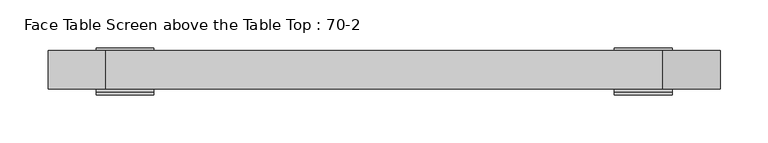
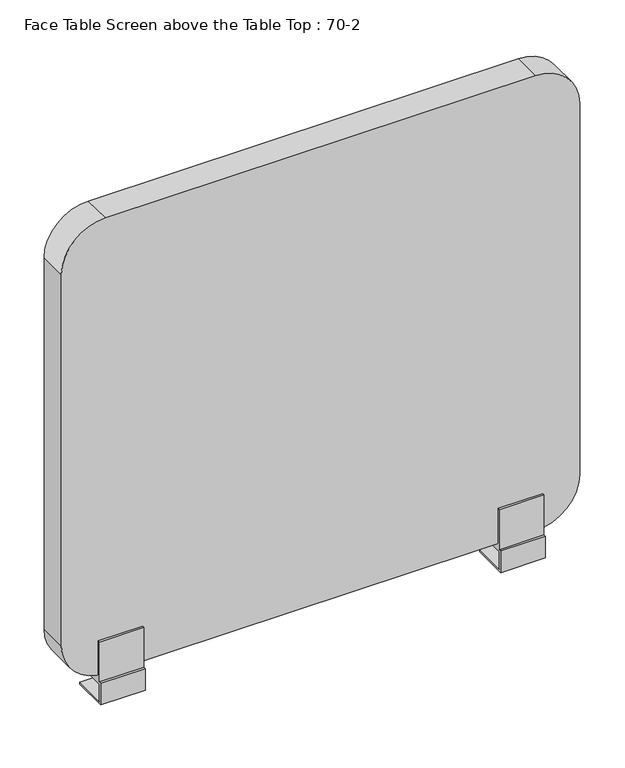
"""IFC4 building model written with IfcOpenShell, lengths in millimetres: furniture geometry, Face Table Screen above the Table Top : 70-2."""

from ifc_helpers import new_model, si_unit, point, frame, frame_2d, origin, place, context, project, spatial, polyline, circle_curve, trimmed, segment, composite_curve, outline, extrude, source, transform, mapped, element, save
from ifc_brep_helpers import plane_surface, cylinder_surface, advanced_brep


def face_table_screen_above_the_table_top_70_2_15536117(model_context):
    return source(origin(), model_context, "Body", "SolidModel", [
        advanced_brep(
        [(-275.0, 0.0, -39.4406633), (-265.0, 0.0, -39.4406633), (-265.0, 0.0, -28.0), (-275.0, 0.0, -28.0), (-300.0, 23.0, -25.0), (-300.0, -23.0, -25.0), (-240.0, -23.0, -25.0), (-240.0, 23.0, -25.0), (-300.0, -23.0, 0.0), (-300.0, 23.0, -28.0), (-300.0, -26.0, -28.0), (-300.0, -26.0, 3.0), (-300.0, -23.0, 3.0), (-300.0, -23.0, 60.0), (-300.0, -20.0, 60.0), (-300.0, -20.0, 10.0), (-300.0, 20.0, 10.0), (-300.0, 20.0, 60.0), (-300.0, 23.0, 60.0), (-300.0, 23.0, 0.0), (-240.0, -23.0, 0.0), (-240.0, 23.0, 0.0), (-240.0, 23.0, 60.0), (-240.0, 20.0, 60.0), (-240.0, 20.0, 10.0), (-240.0, -20.0, 10.0), (-240.0, -20.0, 60.0), (-240.0, -23.0, 60.0), (-240.0, -23.0, 3.0), (-240.0, -26.0, 3.0), (-240.0, -26.0, -28.0), (-240.0, 23.0, -28.0)],
        [
            (0, 1, circle_curve(frame((-270.0, 0.0, -39.4406633), z_axis=(0.0, 0.0, -1.0), x_axis=(1.0, 0.0, 0.0)), 5.0)),
            (1, 0, circle_curve(frame((-270.0, 0.0, -39.4406633), z_axis=(0.0, 0.0, -1.0), x_axis=(1.0, 0.0, 0.0)), 5.0)),
            (1, 2),
            (2, 3, circle_curve(frame((-270.0, 0.0, -28.0), z_axis=(0.0, 0.0, -1.0), x_axis=(1.0, 0.0, 0.0)), 5.0)),
            (3, 0),
            (3, 2, circle_curve(frame((-270.0, 0.0, -28.0), z_axis=(0.0, 0.0, -1.0), x_axis=(1.0, 0.0, 0.0)), 5.0)),
            (4, 5),
            (5, 6),
            (6, 7),
            (7, 4),
            (8, 5),
            (4, 9),
            (9, 10),
            (10, 11),
            (11, 12),
            (12, 13),
            (13, 14),
            (14, 15),
            (15, 16),
            (16, 17),
            (17, 18),
            (18, 19),
            (19, 8),
            (20, 21),
            (21, 22),
            (22, 23),
            (23, 24),
            (24, 25),
            (25, 26),
            (26, 27),
            (27, 28),
            (28, 29),
            (29, 30),
            (30, 31),
            (31, 7),
            (6, 20),
            (19, 21),
            (20, 8),
            (18, 22),
            (17, 23),
            (16, 24),
            (15, 25),
            (14, 26),
            (13, 27),
            (12, 28),
            (11, 29),
            (10, 30),
            (9, 31),
        ],
        [
            plane_surface(frame((-265.0, 0.0, -39.4406633), z_axis=(0.0, 0.0, -1.0), x_axis=(0.0, -1.0, 0.0))),
            cylinder_surface(frame((-270.0, 0.0, -39.4406633), z_axis=(0.0, 0.0, 1.0), x_axis=(1.0, 0.0, 0.0)), 5.0),
            plane_surface(frame((-265.0, 0.0, -25.0), z_axis=(0.0, 0.0, 1.0), x_axis=(0.0, 1.0, 0.0))),
            plane_surface(frame((-300.0, 23.0, 0.0), z_axis=(-1.0, 0.0, 0.0), x_axis=(0.0, -1.0, 0.0))),
            plane_surface(frame((-240.0, 23.0, 0.0), z_axis=(1.0, 0.0, 0.0), x_axis=(0.0, 1.0, 0.0))),
            plane_surface(frame((-240.0, -23.0, 0.0), z_axis=(0.0, 0.0, -1.0), x_axis=(-1.0, 0.0, 0.0))),
            plane_surface(frame((-240.0, 23.0, 0.0), z_axis=(0.0, 1.0, 0.0), x_axis=(-1.0, 0.0, 0.0))),
            plane_surface(frame((-240.0, 23.0, 60.0), z_axis=(0.0, 0.0, 1.0), x_axis=(-1.0, 0.0, 0.0))),
            plane_surface(frame((-240.0, 20.0, 60.0), z_axis=(0.0, -1.0, 0.0), x_axis=(-1.0, 0.0, 0.0))),
            plane_surface(frame((-240.0, 20.0, 10.0), z_axis=(0.0, 0.0, 1.0), x_axis=(-1.0, 0.0, 0.0))),
            plane_surface(frame((-240.0, -20.0, 10.0), z_axis=(0.0, 1.0, 0.0), x_axis=(-1.0, 0.0, 0.0))),
            plane_surface(frame((-240.0, -20.0, 60.0), z_axis=(0.0, 0.0, 1.0), x_axis=(-1.0, 0.0, 0.0))),
            plane_surface(frame((-240.0, -23.0, 60.0), z_axis=(0.0, -1.0, 0.0), x_axis=(-1.0, 0.0, 0.0))),
            plane_surface(frame((-240.0, -23.0, 3.0), z_axis=(0.0, 0.0, 1.0), x_axis=(-1.0, 0.0, 0.0))),
            plane_surface(frame((-240.0, -26.0, 3.0), z_axis=(0.0, -1.0, 0.0), x_axis=(-1.0, 0.0, 0.0))),
            plane_surface(frame((-240.0, -26.0, -28.0), z_axis=(0.0, 0.0, -1.0), x_axis=(-1.0, 0.0, 0.0))),
            plane_surface(frame((-240.0, 23.0, -28.0), z_axis=(0.0, 1.0, 0.0), x_axis=(-1.0, 0.0, 0.0))),
            plane_surface(frame((-240.0, -23.0, -25.0), z_axis=(0.0, 1.0, 0.0), x_axis=(-1.0, 0.0, 0.0))),
        ],
        [
            (0, [[1, 2]]),
            (1, [[-2, 3, 4, 5]]),
            (1, [[-1, -5, 6, -3]]),
            (2, [[7, 8, 9, 10]]),
            (3, [[11, -7, 12, 13, 14, 15, 16, 17, 18, 19, 20, 21, 22, 23]]),
            (4, [[24, 25, 26, 27, 28, 29, 30, 31, 32, 33, 34, 35, -9, 36]]),
            (5, [[-23, 37, -24, 38]]),
            (6, [[-22, 39, -25, -37]]),
            (7, [[-21, 40, -26, -39]]),
            (8, [[-20, 41, -27, -40]]),
            (9, [[-19, 42, -28, -41]]),
            (10, [[-18, 43, -29, -42]]),
            (11, [[-17, 44, -30, -43]]),
            (12, [[-16, 45, -31, -44]]),
            (13, [[-15, 46, -32, -45]]),
            (14, [[-14, 47, -33, -46]]),
            (15, [[-13, 48, -34, -47], [-4, -6]]),
            (16, [[-12, -10, -35, -48]]),
            (17, [[-11, -38, -36, -8]]),
        ],
    ),
        advanced_brep(
        [(265.0, 0.0, -39.4406633), (275.0, 0.0, -39.4406633), (275.0, 0.0, -28.0), (265.0, 0.0, -28.0), (240.0, 23.0, -25.0), (240.0, -23.0, -25.0), (300.0, -23.0, -25.0), (300.0, 23.0, -25.0), (240.0, -23.0, 0.0), (240.0, 23.0, -28.0), (240.0, -26.0, -28.0), (240.0, -26.0, 3.0), (240.0, -23.0, 3.0), (240.0, -23.0, 60.0), (240.0, -20.0, 60.0), (240.0, -20.0, 10.0), (240.0, 20.0, 10.0), (240.0, 20.0, 60.0), (240.0, 23.0, 60.0), (240.0, 23.0, 0.0), (300.0, -23.0, 0.0), (300.0, 23.0, 0.0), (300.0, 23.0, 60.0), (300.0, 20.0, 60.0), (300.0, 20.0, 10.0), (300.0, -20.0, 10.0), (300.0, -20.0, 60.0), (300.0, -23.0, 60.0), (300.0, -23.0, 3.0), (300.0, -26.0, 3.0), (300.0, -26.0, -28.0), (300.0, 23.0, -28.0)],
        [
            (0, 1, circle_curve(frame((270.0, 0.0, -39.4406633), z_axis=(0.0, 0.0, -1.0), x_axis=(1.0, 0.0, 0.0)), 5.0)),
            (1, 0, circle_curve(frame((270.0, 0.0, -39.4406633), z_axis=(0.0, 0.0, -1.0), x_axis=(1.0, 0.0, 0.0)), 5.0)),
            (1, 2),
            (2, 3, circle_curve(frame((270.0, 0.0, -28.0), z_axis=(0.0, 0.0, -1.0), x_axis=(1.0, 0.0, 0.0)), 5.0)),
            (3, 0),
            (3, 2, circle_curve(frame((270.0, 0.0, -28.0), z_axis=(0.0, 0.0, -1.0), x_axis=(1.0, 0.0, 0.0)), 5.0)),
            (4, 5),
            (5, 6),
            (6, 7),
            (7, 4),
            (8, 5),
            (4, 9),
            (9, 10),
            (10, 11),
            (11, 12),
            (12, 13),
            (13, 14),
            (14, 15),
            (15, 16),
            (16, 17),
            (17, 18),
            (18, 19),
            (19, 8),
            (20, 21),
            (21, 22),
            (22, 23),
            (23, 24),
            (24, 25),
            (25, 26),
            (26, 27),
            (27, 28),
            (28, 29),
            (29, 30),
            (30, 31),
            (31, 7),
            (6, 20),
            (19, 21),
            (20, 8),
            (18, 22),
            (17, 23),
            (16, 24),
            (15, 25),
            (14, 26),
            (13, 27),
            (12, 28),
            (11, 29),
            (10, 30),
            (9, 31),
        ],
        [
            plane_surface(frame((275.0, 0.0, -39.4406633), z_axis=(0.0, 0.0, -1.0), x_axis=(0.0, -1.0, 0.0))),
            cylinder_surface(frame((270.0, 0.0, -39.4406633), z_axis=(0.0, 0.0, 1.0), x_axis=(1.0, 0.0, 0.0)), 5.0),
            plane_surface(frame((275.0, 0.0, -25.0), z_axis=(0.0, 0.0, 1.0), x_axis=(0.0, 1.0, 0.0))),
            plane_surface(frame((240.0, 23.0, 0.0), z_axis=(-1.0, 0.0, 0.0), x_axis=(0.0, -1.0, 0.0))),
            plane_surface(frame((300.0, 23.0, 0.0), z_axis=(1.0, 0.0, 0.0), x_axis=(0.0, 1.0, 0.0))),
            plane_surface(frame((300.0, -23.0, 0.0), z_axis=(0.0, 0.0, -1.0), x_axis=(-1.0, 0.0, 0.0))),
            plane_surface(frame((300.0, 23.0, 0.0), z_axis=(0.0, 1.0, 0.0), x_axis=(-1.0, 0.0, 0.0))),
            plane_surface(frame((300.0, 23.0, 60.0), z_axis=(0.0, 0.0, 1.0), x_axis=(-1.0, 0.0, 0.0))),
            plane_surface(frame((300.0, 20.0, 60.0), z_axis=(0.0, -1.0, 0.0), x_axis=(-1.0, 0.0, 0.0))),
            plane_surface(frame((300.0, 20.0, 10.0), z_axis=(0.0, 0.0, 1.0), x_axis=(-1.0, 0.0, 0.0))),
            plane_surface(frame((300.0, -20.0, 10.0), z_axis=(0.0, 1.0, 0.0), x_axis=(-1.0, 0.0, 0.0))),
            plane_surface(frame((300.0, -20.0, 60.0), z_axis=(0.0, 0.0, 1.0), x_axis=(-1.0, 0.0, 0.0))),
            plane_surface(frame((300.0, -23.0, 60.0), z_axis=(0.0, -1.0, 0.0), x_axis=(-1.0, 0.0, 0.0))),
            plane_surface(frame((300.0, -23.0, 3.0), z_axis=(0.0, 0.0, 1.0), x_axis=(-1.0, 0.0, 0.0))),
            plane_surface(frame((300.0, -26.0, 3.0), z_axis=(0.0, -1.0, 0.0), x_axis=(-1.0, 0.0, 0.0))),
            plane_surface(frame((300.0, -26.0, -28.0), z_axis=(0.0, 0.0, -1.0), x_axis=(-1.0, 0.0, 0.0))),
            plane_surface(frame((300.0, 23.0, -28.0), z_axis=(0.0, 1.0, 0.0), x_axis=(-1.0, 0.0, 0.0))),
            plane_surface(frame((300.0, -23.0, -25.0), z_axis=(0.0, 1.0, 0.0), x_axis=(-1.0, 0.0, 0.0))),
        ],
        [
            (0, [[1, 2]]),
            (1, [[-2, 3, 4, 5]]),
            (1, [[-1, -5, 6, -3]]),
            (2, [[7, 8, 9, 10]]),
            (3, [[11, -7, 12, 13, 14, 15, 16, 17, 18, 19, 20, 21, 22, 23]]),
            (4, [[24, 25, 26, 27, 28, 29, 30, 31, 32, 33, 34, 35, -9, 36]]),
            (5, [[-23, 37, -24, 38]]),
            (6, [[-22, 39, -25, -37]]),
            (7, [[-21, 40, -26, -39]]),
            (8, [[-20, 41, -27, -40]]),
            (9, [[-19, 42, -28, -41]]),
            (10, [[-18, 43, -29, -42]]),
            (11, [[-17, 44, -30, -43]]),
            (12, [[-16, 45, -31, -44]]),
            (13, [[-15, 46, -32, -45]]),
            (14, [[-14, 47, -33, -46]]),
            (15, [[-13, 48, -34, -47], [-4, -6]]),
            (16, [[-12, -10, -35, -48]]),
            (17, [[-11, -38, -36, -8]]),
        ],
    ),
        extrude(outline(composite_curve([segment(polyline([(660.0, 290.0), (660.0, -290.0)]), True, "CONTINUOUS"), segment(trimmed(circle_curve(frame_2d((600.0, -290.0)), 60.0), [point((660.0, -290.0))], [point((600.0, -350.0))], False, "CARTESIAN"), True, "CONTINUOUS"), segment(polyline([(600.0, -350.0), (70.0, -350.0)]), True, "CONTINUOUS"), segment(trimmed(circle_curve(frame_2d((70.0, -290.0)), 60.0), [point((70.0, -350.0))], [point((10.0, -290.0))], False, "CARTESIAN"), True, "CONTINUOUS"), segment(polyline([(10.0, -290.0), (10.0, 290.0)]), True, "CONTINUOUS"), segment(trimmed(circle_curve(frame_2d((70.0, 290.0)), 60.0), [point((10.0, 290.0))], [point((70.0, 350.0))], False, "CARTESIAN"), True, "CONTINUOUS"), segment(polyline([(70.0, 350.0), (600.0, 350.0)]), True, "CONTINUOUS"), segment(trimmed(circle_curve(frame_2d((600.0, 290.0)), 60.0), [point((600.0, 350.0))], [point((660.0, 290.0))], False, "CARTESIAN"), True, "CONTINUOUS")], self_intersect=False)), frame((0.0, -20.0, 0.0), z_axis=(0.0, 1.0, 0.0), x_axis=(0.0, 0.0, 1.0)), (0.0, 0.0, 1.0), 40.0),
    ])


if __name__ == "__main__":
    model = new_model("IFC4")
    model_context = context("Model", 3, world=origin())
    ifc_project = project(units=[si_unit("LENGTHUNIT", "METRE", prefix="MILLI")], contexts=[model_context])
    site = spatial("IfcSite", under=ifc_project)
    building = spatial("IfcBuilding", under=site)
    placement = place(None, origin())
    face_table_screen_above_the_table_top_70_2_shape = face_table_screen_above_the_table_top_70_2_15536117(model_context)
    element("IfcFurniture", 1, ObjectType="Face Table Screen above the Table Top : 70-2", at=placement, inside=building, context=model_context, shape_type="MappedRepresentation", body=[
        mapped(face_table_screen_above_the_table_top_70_2_shape, transform((0.0, 0.0, 0.0), x_axis=(1.0, 0.0, 0.0), y_axis=(0.0, 1.0, 0.0), z_axis=(0.0, 0.0, 1.0))),
    ])
    save(model, "model.ifc")
